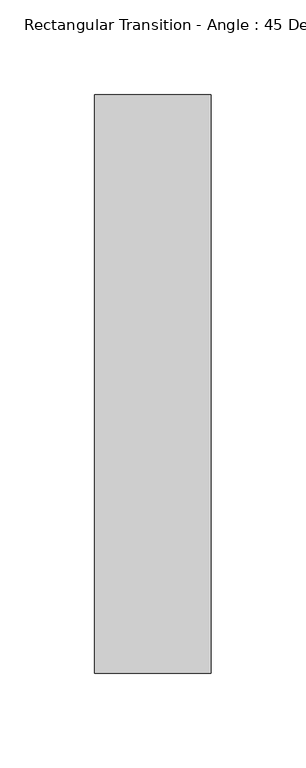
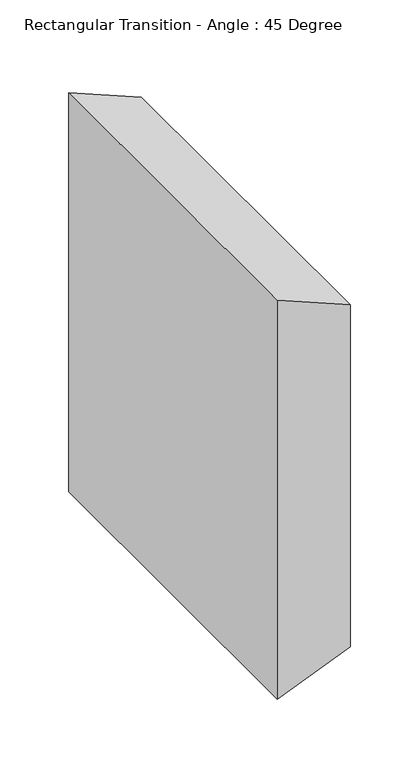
"""IFC4 building model written with IfcOpenShell, lengths in millimetres: duct fitting geometry, Rectangular Transition - Angle : 45 Degree."""

from ifc_helpers import new_model, si_unit, frame, origin, place, context, project, spatial, polyline, outline, extrude, source, transform, mapped, element, save


def rectangular_transition_angle_45_degree_622b8b9e(model_context):
    return source(origin(), model_context, "Body", "SweptSolid", [
        extrude(outline(polyline([(177.8, 0.0), (-177.8, 0.0), (-152.4, 61.3210245), (152.4, 61.3210245), (177.8, 0.0)])), frame((0.0, -152.4, 0.0), z_axis=(0.0, 1.0, 0.0), x_axis=(0.0, 0.0, 1.0)), (0.0, 0.0, 1.0), 304.8),
    ])


if __name__ == "__main__":
    model = new_model("IFC4")
    model_context = context("Model", 3, world=origin())
    ifc_project = project(units=[si_unit("LENGTHUNIT", "METRE", prefix="MILLI")], contexts=[model_context])
    site = spatial("IfcSite", under=ifc_project)
    building = spatial("IfcBuilding", under=site)
    placement = place(None, origin())
    rectangular_transition_angle_45_degree_shape = rectangular_transition_angle_45_degree_622b8b9e(model_context)
    element("IfcDuctFitting", 1, ObjectType="Rectangular Transition - Angle : 45 Degree", at=placement, inside=building, context=model_context, shape_type="MappedRepresentation", body=[
        mapped(rectangular_transition_angle_45_degree_shape, transform((0.0, 0.0, 0.0), x_axis=(1.0, 0.0, 0.0), y_axis=(0.0, 1.0, 0.0), z_axis=(0.0, 0.0, 1.0))),
    ])
    save(model, "model.ifc")
